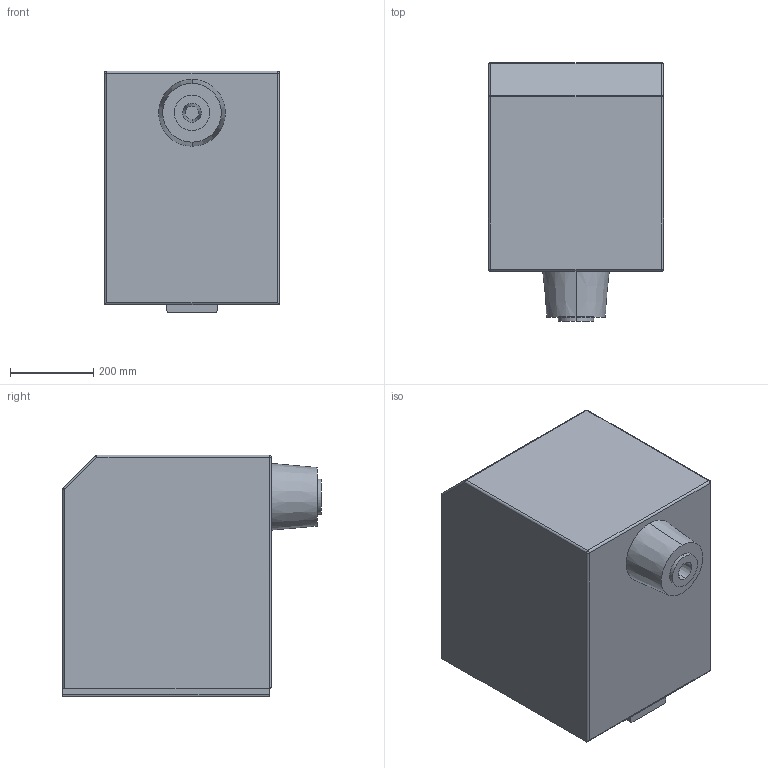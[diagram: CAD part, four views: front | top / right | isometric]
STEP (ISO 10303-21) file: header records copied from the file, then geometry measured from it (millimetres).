
FILE_DESCRIPTION (( 'STEP AP203' ), '1' );
FILE_NAME ('Nez de Broche.STEP', '2009-12-04T11:14:27', ( 'Famille Couzi' ), ( '' ), 'SwSTEP 2.0', 'SolidWorks 2005143', '' );
FILE_SCHEMA (( 'CONFIG_CONTROL_DESIGN' ));
Length unit declared in the file: millimetre
Products named in the file (1): Nez de Broche
Bounding box: 420 x 620 x 580 mm (x, y, z)
Volume: 119287498.8 mm3; surface area: 1502143.1 mm2
Topology: 1 solids, 1 shells, 41 faces, 90 edges, 50 vertices
Faces by surface type: cylinder 16, plane 15, sphere 6, cone 4
Entity records: 1157 total; most frequent: DIRECTION 204, CARTESIAN_POINT 184, ORIENTED_EDGE 172, EDGE_CURVE 86, AXIS2_PLACEMENT_3D 78, VERTEX_POINT 50, VECTOR 48, LINE 48
